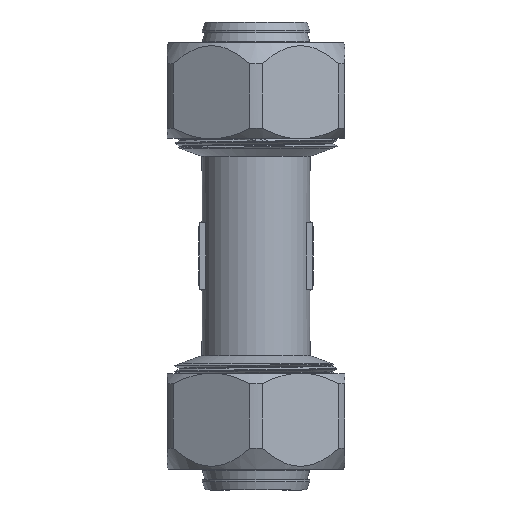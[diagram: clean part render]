
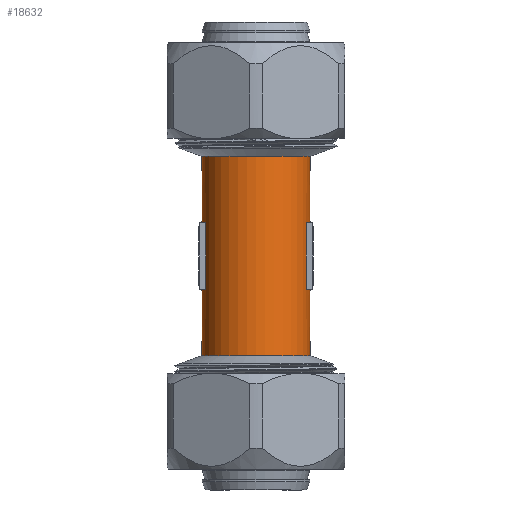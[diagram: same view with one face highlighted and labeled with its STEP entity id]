
A CAD part, front view. The second image highlights one B-rep face of the part: STEP entity #18632.
In plain terms, the highlighted cylindrical face has radius 13 mm (diameter 26 mm), a full revolution.
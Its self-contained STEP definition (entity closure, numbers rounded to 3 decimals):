
#747=B_SPLINE_CURVE_WITH_KNOTS('',3,(#24363,#24364,#24365,#24366,#24367,
#24368,#24369,#24370,#24371,#24372),.UNSPECIFIED.,.F.,.F.,(4,2,2,2,4),(3.865,
4.186,4.507,4.83,5.154),
 .UNSPECIFIED.);
#748=B_SPLINE_CURVE_WITH_KNOTS('',3,(#24374,#24375,#24376,#24377,#24378,
#24379,#24380,#24381,#24382,#24383),.UNSPECIFIED.,.F.,.F.,(4,2,2,2,4),(0.,
0.323,0.647,0.968,1.288),
 .UNSPECIFIED.);
#749=B_SPLINE_CURVE_WITH_KNOTS('',3,(#24385,#24386,#24387,#24388,#24389,
#24390,#24391,#24392,#24393,#24394,#24395,#24396,#24397,#24398,#24399,#24400,
#24401,#24402),.UNSPECIFIED.,.F.,.F.,(4,2,2,2,2,2,2,2,4),(1.288,
1.609,1.93,2.253,2.577,2.9,
3.224,3.545,3.865),.UNSPECIFIED.);
#1963=CYLINDRICAL_SURFACE('',#19874,13.);
#2138=FACE_BOUND('',#3647,.T.);
#2139=FACE_BOUND('',#3648,.T.);
#2565=FACE_OUTER_BOUND('',#3646,.T.);
#3646=EDGE_LOOP('',(#12657,#12658,#12659,#12660,#12661,#12662,#12663,#12664,
#12665));
#3647=EDGE_LOOP('',(#12666,#12667,#12668,#12669));
#3648=EDGE_LOOP('',(#12670,#12671,#12672,#12673));
#4832=LINE('',#24361,#6004);
#4833=LINE('',#24384,#6005);
#4834=LINE('',#24407,#6006);
#4835=LINE('',#24410,#6007);
#4836=LINE('',#24415,#6008);
#4837=LINE('',#24418,#6009);
#6004=VECTOR('',#21000,13.);
#6005=VECTOR('',#21001,13.);
#6006=VECTOR('',#21004,10.);
#6007=VECTOR('',#21007,10.);
#6008=VECTOR('',#21010,10.);
#6009=VECTOR('',#21013,10.);
#7184=CIRCLE('',#19873,13.);
#7185=CIRCLE('',#19875,13.);
#7186=CIRCLE('',#19876,13.);
#7187=CIRCLE('',#19877,13.);
#7188=CIRCLE('',#19878,13.);
#7189=CIRCLE('',#19879,13.);
#7676=VERTEX_POINT('',#24355);
#7677=VERTEX_POINT('',#24358);
#7678=VERTEX_POINT('',#24360);
#7679=VERTEX_POINT('',#24362);
#7680=VERTEX_POINT('',#24373);
#7681=VERTEX_POINT('',#24403);
#7682=VERTEX_POINT('',#24404);
#7683=VERTEX_POINT('',#24406);
#7684=VERTEX_POINT('',#24408);
#7685=VERTEX_POINT('',#24411);
#7686=VERTEX_POINT('',#24412);
#7687=VERTEX_POINT('',#24414);
#7688=VERTEX_POINT('',#24416);
#9680=EDGE_CURVE('',#7676,#7676,#7184,.T.);
#9681=EDGE_CURVE('',#7677,#7677,#7185,.T.);
#9682=EDGE_CURVE('',#7677,#7678,#4832,.T.);
#9683=EDGE_CURVE('',#7678,#7679,#747,.T.);
#9684=EDGE_CURVE('',#7679,#7680,#748,.T.);
#9685=EDGE_CURVE('',#7680,#7676,#4833,.T.);
#9686=EDGE_CURVE('',#7680,#7678,#749,.T.);
#9687=EDGE_CURVE('',#7681,#7682,#7186,.T.);
#9688=EDGE_CURVE('',#7682,#7683,#4834,.T.);
#9689=EDGE_CURVE('',#7683,#7684,#7187,.T.);
#9690=EDGE_CURVE('',#7684,#7681,#4835,.T.);
#9691=EDGE_CURVE('',#7685,#7686,#7188,.T.);
#9692=EDGE_CURVE('',#7686,#7687,#4836,.T.);
#9693=EDGE_CURVE('',#7687,#7688,#7189,.T.);
#9694=EDGE_CURVE('',#7688,#7685,#4837,.T.);
#12657=ORIENTED_EDGE('',*,*,#9681,.F.);
#12658=ORIENTED_EDGE('',*,*,#9682,.T.);
#12659=ORIENTED_EDGE('',*,*,#9683,.T.);
#12660=ORIENTED_EDGE('',*,*,#9684,.T.);
#12661=ORIENTED_EDGE('',*,*,#9685,.T.);
#12662=ORIENTED_EDGE('',*,*,#9680,.T.);
#12663=ORIENTED_EDGE('',*,*,#9685,.F.);
#12664=ORIENTED_EDGE('',*,*,#9686,.T.);
#12665=ORIENTED_EDGE('',*,*,#9682,.F.);
#12666=ORIENTED_EDGE('',*,*,#9687,.T.);
#12667=ORIENTED_EDGE('',*,*,#9688,.T.);
#12668=ORIENTED_EDGE('',*,*,#9689,.T.);
#12669=ORIENTED_EDGE('',*,*,#9690,.T.);
#12670=ORIENTED_EDGE('',*,*,#9691,.T.);
#12671=ORIENTED_EDGE('',*,*,#9692,.T.);
#12672=ORIENTED_EDGE('',*,*,#9693,.T.);
#12673=ORIENTED_EDGE('',*,*,#9694,.T.);
#18632=ADVANCED_FACE('',(#2565,#2138,#2139),#1963,.T.);
#19873=AXIS2_PLACEMENT_3D('',#24356,#20994,#20995);
#19874=AXIS2_PLACEMENT_3D('',#24357,#20996,#20997);
#19875=AXIS2_PLACEMENT_3D('',#24359,#20998,#20999);
#19876=AXIS2_PLACEMENT_3D('',#24405,#21002,#21003);
#19877=AXIS2_PLACEMENT_3D('',#24409,#21005,#21006);
#19878=AXIS2_PLACEMENT_3D('',#24413,#21008,#21009);
#19879=AXIS2_PLACEMENT_3D('',#24417,#21011,#21012);
#20994=DIRECTION('center_axis',(0.,0.,1.));
#20995=DIRECTION('ref_axis',(0.,-1.,0.));
#20996=DIRECTION('center_axis',(0.,0.,1.));
#20997=DIRECTION('ref_axis',(0.,-1.,0.));
#20998=DIRECTION('center_axis',(0.,0.,1.));
#20999=DIRECTION('ref_axis',(1.,0.,0.));
#21000=DIRECTION('',(0.,0.,-1.));
#21001=DIRECTION('',(0.,0.,-1.));
#21002=DIRECTION('center_axis',(0.,0.,-1.));
#21003=DIRECTION('ref_axis',(0.,-1.,0.));
#21004=DIRECTION('',(0.,0.,1.));
#21005=DIRECTION('center_axis',(0.,0.,1.));
#21006=DIRECTION('ref_axis',(0.,-1.,0.));
#21007=DIRECTION('',(0.,0.,-1.));
#21008=DIRECTION('center_axis',(0.,0.,-1.));
#21009=DIRECTION('ref_axis',(0.,-1.,0.));
#21010=DIRECTION('',(0.,0.,1.));
#21011=DIRECTION('center_axis',(0.,0.,1.));
#21012=DIRECTION('ref_axis',(0.,-1.,0.));
#21013=DIRECTION('',(0.,0.,-1.));
#24355=CARTESIAN_POINT('',(0.,13.,-23.995));
#24356=CARTESIAN_POINT('Origin',(0.,0.,-23.995));
#24357=CARTESIAN_POINT('Origin',(0.,0.,-12.));
#24358=CARTESIAN_POINT('',(0.,13.,24.));
#24359=CARTESIAN_POINT('Origin',(0.,0.,24.));
#24360=CARTESIAN_POINT('',(0.,13.,8.25));
#24361=CARTESIAN_POINT('',(0.,13.,-12.));
#24362=CARTESIAN_POINT('',(-8.25,10.047,0.));
#24363=CARTESIAN_POINT('Ctrl Pts',(0.,13.,8.25));
#24364=CARTESIAN_POINT('Ctrl Pts',(-1.069,13.,8.25));
#24365=CARTESIAN_POINT('Ctrl Pts',(-2.189,12.857,8.03));
#24366=CARTESIAN_POINT('Ctrl Pts',(-4.214,12.342,7.177));
#24367=CARTESIAN_POINT('Ctrl Pts',(-5.121,11.975,6.546));
#24368=CARTESIAN_POINT('Ctrl Pts',(-6.552,11.257,5.115));
#24369=CARTESIAN_POINT('Ctrl Pts',(-7.179,10.851,4.21));
#24370=CARTESIAN_POINT('Ctrl Pts',(-8.028,10.238,2.193));
#24371=CARTESIAN_POINT('Ctrl Pts',(-8.25,10.047,1.078));
#24372=CARTESIAN_POINT('Ctrl Pts',(-8.25,10.047,0.));
#24373=CARTESIAN_POINT('',(0.,13.,-8.25));
#24374=CARTESIAN_POINT('Ctrl Pts',(-8.25,10.047,0.));
#24375=CARTESIAN_POINT('Ctrl Pts',(-8.25,10.047,-1.078));
#24376=CARTESIAN_POINT('Ctrl Pts',(-8.028,10.238,-2.193));
#24377=CARTESIAN_POINT('Ctrl Pts',(-7.179,10.851,-4.21));
#24378=CARTESIAN_POINT('Ctrl Pts',(-6.552,11.257,-5.115));
#24379=CARTESIAN_POINT('Ctrl Pts',(-5.121,11.975,-6.546));
#24380=CARTESIAN_POINT('Ctrl Pts',(-4.214,12.342,-7.177));
#24381=CARTESIAN_POINT('Ctrl Pts',(-2.189,12.857,-8.03));
#24382=CARTESIAN_POINT('Ctrl Pts',(-1.069,13.,-8.25));
#24383=CARTESIAN_POINT('Ctrl Pts',(0.,13.,-8.25));
#24384=CARTESIAN_POINT('',(0.,13.,-12.));
#24385=CARTESIAN_POINT('Ctrl Pts',(0.,13.,-8.25));
#24386=CARTESIAN_POINT('Ctrl Pts',(1.069,13.,-8.25));
#24387=CARTESIAN_POINT('Ctrl Pts',(2.189,12.857,-8.03));
#24388=CARTESIAN_POINT('Ctrl Pts',(4.214,12.342,-7.177));
#24389=CARTESIAN_POINT('Ctrl Pts',(5.121,11.975,-6.546));
#24390=CARTESIAN_POINT('Ctrl Pts',(6.552,11.257,-5.115));
#24391=CARTESIAN_POINT('Ctrl Pts',(7.179,10.851,-4.21));
#24392=CARTESIAN_POINT('Ctrl Pts',(8.028,10.238,-2.193));
#24393=CARTESIAN_POINT('Ctrl Pts',(8.25,10.047,-1.078));
#24394=CARTESIAN_POINT('Ctrl Pts',(8.25,10.047,1.078));
#24395=CARTESIAN_POINT('Ctrl Pts',(8.028,10.238,2.193));
#24396=CARTESIAN_POINT('Ctrl Pts',(7.179,10.851,4.21));
#24397=CARTESIAN_POINT('Ctrl Pts',(6.552,11.257,5.115));
#24398=CARTESIAN_POINT('Ctrl Pts',(5.121,11.975,6.546));
#24399=CARTESIAN_POINT('Ctrl Pts',(4.214,12.342,7.177));
#24400=CARTESIAN_POINT('Ctrl Pts',(2.189,12.857,8.03));
#24401=CARTESIAN_POINT('Ctrl Pts',(1.069,13.,8.25));
#24402=CARTESIAN_POINT('Ctrl Pts',(0.,13.,8.25));
#24403=CARTESIAN_POINT('',(-12.096,-4.764,-8.));
#24404=CARTESIAN_POINT('',(-12.106,4.736,-8.));
#24405=CARTESIAN_POINT('Origin',(0.,0.,-8.));
#24406=CARTESIAN_POINT('',(-12.106,4.736,8.));
#24407=CARTESIAN_POINT('',(-12.106,4.736,-12.));
#24408=CARTESIAN_POINT('',(-12.096,-4.764,8.));
#24409=CARTESIAN_POINT('Origin',(0.,0.,8.));
#24410=CARTESIAN_POINT('',(-12.096,-4.764,-12.));
#24411=CARTESIAN_POINT('',(12.106,4.736,-8.));
#24412=CARTESIAN_POINT('',(12.096,-4.764,-8.));
#24413=CARTESIAN_POINT('Origin',(0.,0.,-8.));
#24414=CARTESIAN_POINT('',(12.096,-4.764,8.));
#24415=CARTESIAN_POINT('',(12.096,-4.764,-12.));
#24416=CARTESIAN_POINT('',(12.106,4.736,8.));
#24417=CARTESIAN_POINT('Origin',(0.,0.,8.));
#24418=CARTESIAN_POINT('',(12.106,4.736,-12.));
